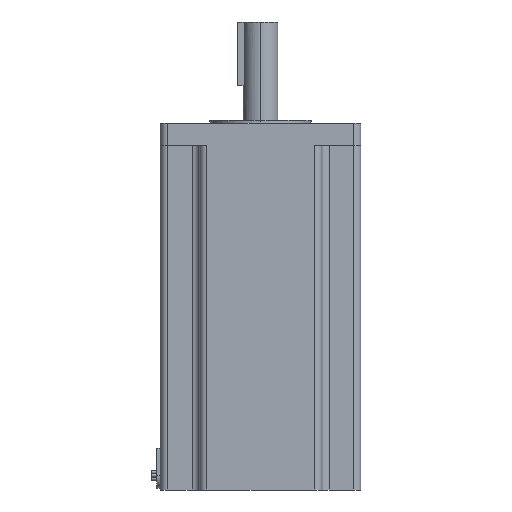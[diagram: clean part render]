
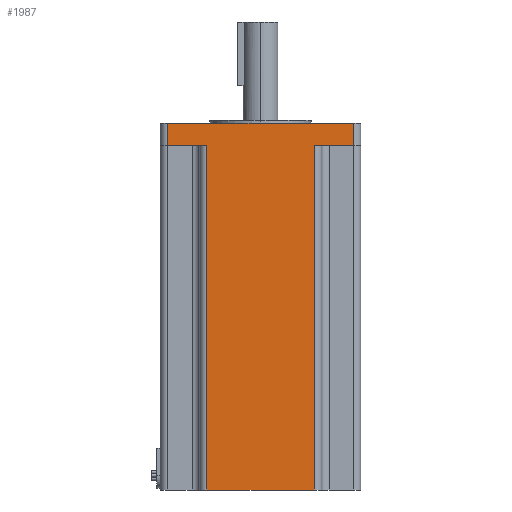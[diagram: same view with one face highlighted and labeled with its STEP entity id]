
A CAD part, left-side view. The second image highlights one B-rep face of the part: STEP entity #1987.
In plain terms, the highlighted planar face has unit normal (-1, 0, 0).
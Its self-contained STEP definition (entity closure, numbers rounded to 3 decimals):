
#980 = CARTESIAN_POINT ( 'NONE',  ( -54.93, 50.93, 201. ) ) ;
#1012 = DIRECTION ( 'NONE',  ( 1., 0., 0. ) ) ;
#1048 = PLANE ( 'NONE',  #1054 ) ;
#1054 = AXIS2_PLACEMENT_3D ( 'NONE', #980, #1012, #1075 ) ;
#1075 = DIRECTION ( 'NONE',  ( 0., 1., 0. ) ) ;
#1576 = CARTESIAN_POINT ( 'NONE',  ( -54.93, -50.93, 201. ) ) ;
#1582 = CARTESIAN_POINT ( 'NONE',  ( -54.93, -50.93, 188.81 ) ) ;
#1588 = CARTESIAN_POINT ( 'NONE',  ( -54.93, 50.93, 201. ) ) ;
#1589 = DIRECTION ( 'NONE',  ( 0., 0., -1. ) ) ;
#1590 = VECTOR ( 'NONE', #1589, 1000. ) ;
#1591 = CARTESIAN_POINT ( 'NONE',  ( -54.93, -50.93, 201. ) ) ;
#1592 = LINE ( 'NONE', #1591, #1590 ) ;
#1637 = CARTESIAN_POINT ( 'NONE',  ( -54.93, 50.93, 188.81 ) ) ;
#1650 = DIRECTION ( 'NONE',  ( 0., 0., -1. ) ) ;
#1651 = VECTOR ( 'NONE', #1650, 1000. ) ;
#1652 = CARTESIAN_POINT ( 'NONE',  ( -54.93, 50.93, 201. ) ) ;
#1669 = LINE ( 'NONE', #1652, #1651 ) ;
#1675 = DIRECTION ( 'NONE',  ( 0., -1., 0. ) ) ;
#1676 = VECTOR ( 'NONE', #1675, 1000. ) ;
#1677 = CARTESIAN_POINT ( 'NONE',  ( -54.93, 50.93, 201. ) ) ;
#1678 = LINE ( 'NONE', #1677, #1676 ) ;
#1697 = DIRECTION ( 'NONE',  ( 0., -1., 0. ) ) ;
#1698 = VECTOR ( 'NONE', #1697, 1000. ) ;
#1699 = CARTESIAN_POINT ( 'NONE',  ( -54.93, 50.93, 0. ) ) ;
#1700 = LINE ( 'NONE', #1699, #1698 ) ;
#1716 = DIRECTION ( 'NONE',  ( 0., -1., 0. ) ) ;
#1717 = VECTOR ( 'NONE', #1716, 1000. ) ;
#1718 = CARTESIAN_POINT ( 'NONE',  ( -54.93, 54.93, 188.81 ) ) ;
#1719 = LINE ( 'NONE', #1718, #1717 ) ;
#1720 = FACE_OUTER_BOUND ( 'NONE', #2001, .T. ) ;
#1738 = CARTESIAN_POINT ( 'NONE',  ( -54.93, -29.5, 201. ) ) ;
#1739 = VECTOR ( 'NONE', #1740, 1000. ) ;
#1740 = DIRECTION ( 'NONE',  ( 0., 0., 1. ) ) ;
#1744 = CARTESIAN_POINT ( 'NONE',  ( -54.93, 29.5, 188.81 ) ) ;
#1747 = LINE ( 'NONE', #1738, #1739 ) ;
#1750 = CARTESIAN_POINT ( 'NONE',  ( -54.93, 29.5, 0. ) ) ;
#1755 = CARTESIAN_POINT ( 'NONE',  ( -54.93, -29.5, 188.81 ) ) ;
#1776 = LINE ( 'NONE', #1798, #1797 ) ;
#1796 = DIRECTION ( 'NONE',  ( 0., -1., 0. ) ) ;
#1797 = VECTOR ( 'NONE', #1796, 1000. ) ;
#1798 = CARTESIAN_POINT ( 'NONE',  ( -54.93, -54.93, 188.81 ) ) ;
#1808 = CARTESIAN_POINT ( 'NONE',  ( -54.93, -29.5, 0. ) ) ;
#1821 = DIRECTION ( 'NONE',  ( 0., 0., -1. ) ) ;
#1822 = VECTOR ( 'NONE', #1821, 1000. ) ;
#1823 = CARTESIAN_POINT ( 'NONE',  ( -54.93, 29.5, 201. ) ) ;
#1824 = LINE ( 'NONE', #1823, #1822 ) ;
#1901 = VERTEX_POINT ( 'NONE', #1582 ) ;
#1911 = VERTEX_POINT ( 'NONE', #1588 ) ;
#1914 = VERTEX_POINT ( 'NONE', #1576 ) ;
#1915 = EDGE_CURVE ( 'NONE', #1914, #1901, #1592, .T. ) ;
#1921 = VERTEX_POINT ( 'NONE', #1637 ) ;
#1933 = EDGE_CURVE ( 'NONE', #1911, #1921, #1669, .T. ) ;
#1936 = EDGE_CURVE ( 'NONE', #1911, #1914, #1678, .T. ) ;
#1978 = ORIENTED_EDGE ( 'NONE', *, *, #1936, .F. ) ;
#1981 = EDGE_CURVE ( 'NONE', #1993, #2030, #1700, .T. ) ;
#1985 = ORIENTED_EDGE ( 'NONE', *, *, #1986, .T. ) ;
#1986 = EDGE_CURVE ( 'NONE', #1921, #1991, #1719, .T. ) ;
#1987 = ADVANCED_FACE ( 'NONE', ( #1720 ), #1048, .F. ) ;
#1988 = ORIENTED_EDGE ( 'NONE', *, *, #1981, .T. ) ;
#1989 = EDGE_CURVE ( 'NONE', #2030, #1999, #1747, .T. ) ;
#1990 = ORIENTED_EDGE ( 'NONE', *, *, #1933, .T. ) ;
#1991 = VERTEX_POINT ( 'NONE', #1744 ) ;
#1993 = VERTEX_POINT ( 'NONE', #1750 ) ;
#1999 = VERTEX_POINT ( 'NONE', #1755 ) ;
#2000 = ORIENTED_EDGE ( 'NONE', *, *, #2037, .T. ) ;
#2001 = EDGE_LOOP ( 'NONE', ( #1988, #2008, #2036, #2038, #1978, #1990, #1985, #2000 ) ) ;
#2008 = ORIENTED_EDGE ( 'NONE', *, *, #1989, .T. ) ;
#2030 = VERTEX_POINT ( 'NONE', #1808 ) ;
#2034 = EDGE_CURVE ( 'NONE', #1999, #1901, #1776, .T. ) ;
#2036 = ORIENTED_EDGE ( 'NONE', *, *, #2034, .T. ) ;
#2037 = EDGE_CURVE ( 'NONE', #1991, #1993, #1824, .T. ) ;
#2038 = ORIENTED_EDGE ( 'NONE', *, *, #1915, .F. ) ;
